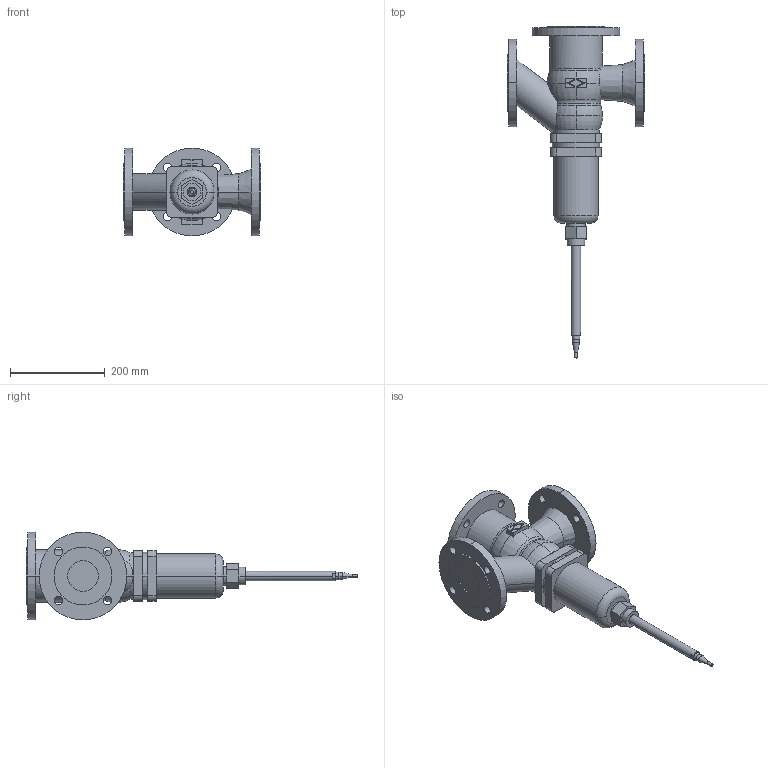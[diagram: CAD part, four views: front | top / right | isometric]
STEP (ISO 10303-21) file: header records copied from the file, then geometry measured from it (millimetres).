
FILE_DESCRIPTION(('CoCreate Modeling STEP Export'),'2;1');
FILE_NAME('c000004793.stp','2011-09-23T12:31:24',(''),(''),'CoCreate Modeling STEP processor for AP214 (Solid Model)','CoCreate Modeling 17.0 01-Apr-2010 (C) Parametric Technology GmbH','');
FILE_SCHEMA(('AUTOMOTIVE_DESIGN { 1 0 10303 214 1 1 1 1 }'));
Length unit declared in the file: millimetre
Products named in the file (1): 1
Bounding box: 290 x 699.44 x 185 mm (x, y, z)
Volume: 5820208.2 mm3; surface area: 386132.5 mm2
Topology: 1 solids, 1 shells, 156 faces, 389 edges, 255 vertices
Faces by surface type: cylinder 70, plane 60, torus 20, cone 6
Entity records: 5478 total; most frequent: CARTESIAN_POINT 859, ORIENTED_EDGE 778, DIRECTION 594, EDGE_CURVE 389, VERTEX_POINT 255, AXIS2_PLACEMENT_3D 214, EDGE_LOOP 200, VECTOR 166
